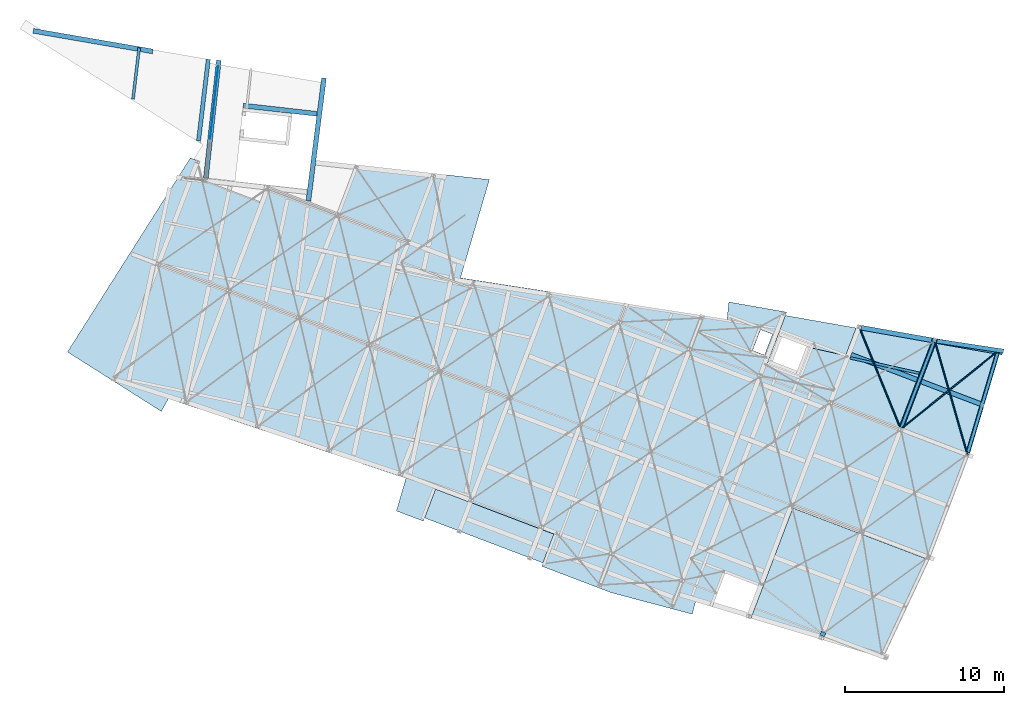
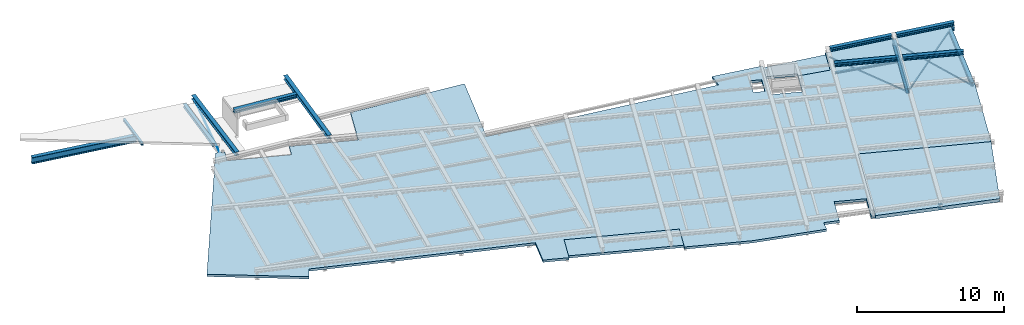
# One storey, part 18 of 21: 21 beams, 4 slabs, 2 openings.
"""IFC2X3 building model written with IfcOpenShell, lengths in millimetres."""

from ifc_helpers import new_model, entity, si_unit, converted_unit, derived_unit, direction, frame, frame_2d, origin, place, context, subcontext, project, spatial, polyline, circle_curve, parameter, trimmed, segment, composite_curve, rectangle, i_section, outline, extrude, material, layer, layer_set, layer_usage, type_object, element, save


model = new_model("IFC2X3")

# Units and contexts
model_context = context("Model", 3, precision=0.01, world=origin(), true_north=direction((6.123233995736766e-17, 1.0)))
body_context = subcontext(model_context, "Body", "Model", "MODEL_VIEW")
ifc_project = project(units=[si_unit("LENGTHUNIT", "METRE", prefix="MILLI"), converted_unit("PLANEANGLEUNIT", "DEGREE", entity("IfcPlaneAngleMeasure", 0.017453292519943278), si_unit("PLANEANGLEUNIT", "RADIAN"), dimensions=[0, 0, 0, 0, 0, 0, 0]), si_unit("AREAUNIT", "SQUARE_METRE"), derived_unit("THERMALTRANSMITTANCEUNIT", [(si_unit("MASSUNIT", "GRAM", prefix="KILO"), 1), (si_unit("THERMODYNAMICTEMPERATUREUNIT", "KELVIN"), -1), (si_unit("TIMEUNIT", "SECOND"), -3)])], contexts=[model_context])

# Site, building, storey
site_placement = place(None, frame((-72937.88054949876, 11621.45624098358, 0.0), z_axis=(0.0, 0.0, 1.0), x_axis=(0.9346418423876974, -0.35559053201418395, 0.0)))
site = spatial("IfcSite", under=ifc_project, at=site_placement, Name="Default", CompositionType="ELEMENT")
building_placement = place(site_placement, origin())
building = spatial("IfcBuilding", under=site, at=building_placement, CompositionType="ELEMENT")
storey_placement = place(building_placement, frame((0.0, 0.0, 4250.0)))
storey = spatial("IfcBuildingStorey", under=building, at=storey_placement, Name="01 eerste verdieping", CompositionType="ELEMENT", Elevation=4250.0)

# Beams
ifc_material_1 = material(Name="metaal_staal_generiek")
beam_type_1 = type_object("IfcBeamType", Name="DIE38", PredefinedType="BEAM")
beam_1_placement = place(storey_placement, frame((62300.0, 14735.0, -80.0), z_axis=(0.0, 0.0, 1.0), x_axis=(0.0, 1.0, 0.0)))
element("IfcBeam", 1, at=beam_1_placement, inside=storey, type_object=beam_type_1, material=ifc_material_1, Name="28.11_Stalen balk HEA", ObjectType="stalen balk HEA profiel", context=body_context, shape_type="SweptSolid", body=[
    extrude(i_section(OverallWidth=300.0000000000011, OverallDepth=369.9999999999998, WebThickness=10.999999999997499, FlangeThickness=19.000000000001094, FilletRadius=26.999999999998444, at=frame_2d((2.7000623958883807e-13, 0.0), x_axis=(0.0, 1.0))), frame((145.0, 0.0, -185.0), z_axis=(1.0, 0.0, 0.0), x_axis=(0.0, 0.0, -1.0)), (0.0, 0.0, 1.0), 250.00000000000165),
])
beam_type_2 = type_object("IfcBeamType", Name="DIE16", PredefinedType="BEAM")
beam_2_placement = place(storey_placement, frame((57570.0, 31810.0, -80.0), z_axis=(0.0, 0.0, 1.0), x_axis=(0.9895267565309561, 0.14434956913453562, 0.0)))
element("IfcBeam", 2, at=beam_2_placement, inside=storey, type_object=beam_type_2, material=ifc_material_1, Name="28.11_Stalen balk HEA", ObjectType="stalen balk HEA profiel", context=body_context, shape_type="SweptSolid", body=[
    extrude(i_section(OverallWidth=160.00000000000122, OverallDepth=152.0000000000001, WebThickness=5.999999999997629, FlangeThickness=9.00000000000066, FilletRadius=14.999999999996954, at=frame_2d((1.0871303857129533e-12, 2.1458390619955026e-12), x_axis=(0.0, 1.0))), frame((175.9813805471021, 0.0, -220.0), z_axis=(1.0, 0.0, 0.0), x_axis=(0.0, 0.0, -1.0)), (0.0, 0.0, 1.0), 4428.100000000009),
])
beam_type_3 = type_object("IfcBeamType", Name="DIE18", PredefinedType="BEAM")
beam_3_placement = place(storey_placement, frame((9817.08871430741, 31041.284292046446, -80.0), z_axis=(0.0, 0.0, 1.0), x_axis=(-0.24176909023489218, 0.9703338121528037, 0.0)))
element("IfcBeam", 3, at=beam_3_placement, inside=storey, type_object=beam_type_3, material=ifc_material_1, Name="28.11_Stalen balk HEA", ObjectType="stalen balk HEA profiel", context=body_context, shape_type="SweptSolid", body=[
    extrude(i_section(OverallWidth=180.0000000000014, OverallDepth=171.0000000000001, WebThickness=5.999999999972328, FlangeThickness=9.500000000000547, FilletRadius=14.99999999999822, at=frame_2d((1.0800249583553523e-12, -5.329070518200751e-13), x_axis=(0.0, 1.0))), frame((-35.08127612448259, 0.0, -255.50000000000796), z_axis=(1.0, 0.0, 0.0), x_axis=(0.0, 0.0, -1.0)), (0.0, 0.0, 1.0), 3252.4000000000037),
])
beam_type_4 = type_object("IfcBeamType", Name="DIE26", PredefinedType="BEAM")
beam_4_placement = place(storey_placement, frame((66520.00000397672, 35639.99997468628, -80.0), z_axis=(0.0, 0.0, 1.0), x_axis=(-0.9775304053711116, -0.21079446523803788, 0.0)))
element("IfcBeam", 4, at=beam_4_placement, inside=storey, type_object=beam_type_4, material=ifc_material_1, Name="28.11_Stalen balk HEA", ObjectType="stalen balk HEA profiel", context=body_context, shape_type="SweptSolid", body=[
    extrude(i_section(OverallWidth=260.0000000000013, OverallDepth=250.00000000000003, WebThickness=7.50000000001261, FlangeThickness=12.500000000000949, FilletRadius=24.000000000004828, at=frame_2d((-2.7000623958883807e-13, -7.275957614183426e-12), x_axis=(0.0, 1.0))), frame((-85.49936370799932, 0.0, -125.0), z_axis=(1.0, 0.0, 0.0), x_axis=(0.0, 0.0, -1.0)), (0.0, 0.0, 1.0), 4250.2000000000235),
])
beam_5_placement = place(storey_placement, frame((66779.31423777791, 28760.0, -80.0), z_axis=(0.0, 0.0, 1.0), x_axis=(-0.07392507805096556, 0.9972637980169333, 0.0)))
element("IfcBeam", 5, at=beam_5_placement, inside=storey, type_object=beam_type_4, material=ifc_material_1, Name="28.11_Stalen balk HEA", ObjectType="stalen balk HEA profiel", context=body_context, shape_type="SweptSolid", body=[
    extrude(i_section(OverallWidth=259.9999999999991, OverallDepth=250.00000000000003, WebThickness=7.499999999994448, FlangeThickness=12.500000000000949, FilletRadius=24.000000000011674, at=frame_2d((-2.7000623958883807e-13, 0.0), x_axis=(0.0, 1.0))), frame((144.94017126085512, 0.0, -125.0), z_axis=(1.0, 0.0, 0.0), x_axis=(0.0, 0.0, -1.0)), (0.0, 0.0, 1.0), 6518.4000000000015),
])
beam_6_placement = place(storey_placement, frame((14595.436674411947, 30062.69521065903, -80.0), z_axis=(0.0, 0.0, 1.0), x_axis=(-0.24176909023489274, 0.9703338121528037, 0.0)))
element("IfcBeam", 6, at=beam_6_placement, inside=storey, type_object=beam_type_4, material=ifc_material_1, Name="28.11_Stalen balk HEA", ObjectType="stalen balk HEA profiel", context=body_context, shape_type="SweptSolid", body=[
    extrude(i_section(OverallWidth=260.0000000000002, OverallDepth=250.00000000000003, WebThickness=7.500000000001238, FlangeThickness=12.500000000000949, FilletRadius=24.00000000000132, at=frame_2d((-2.7000623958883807e-13, 1.0516032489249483e-12), x_axis=(0.0, 1.0))), frame((-51.89979144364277, 0.0, -125.0), z_axis=(1.0, 0.0, 0.0), x_axis=(0.0, 0.0, -1.0)), (0.0, 0.0, 1.0), 5159.400000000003),
])
beam_type_5 = type_object("IfcBeamType", Name="DIE34", PredefinedType="BEAM")
beam_7_placement = place(storey_placement, frame((62300.0, 28760.0, -80.0), z_axis=(0.0, 0.0, 1.0), x_axis=(0.0, 1.0, 0.0)))
element("IfcBeam", 7, at=beam_7_placement, inside=storey, type_object=beam_type_5, material=ifc_material_1, Name="28.11_Stalen balk HEA", ObjectType="stalen balk HEA profiel", context=body_context, shape_type="SweptSolid", body=[
    extrude(i_section(OverallWidth=300.0000000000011, OverallDepth=329.9999999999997, WebThickness=9.49999999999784, FlangeThickness=16.500000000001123, FilletRadius=26.999999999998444, at=frame_2d((0.0, -8.65441052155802e-12), x_axis=(0.0, 1.0))), frame((137.69999999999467, 0.0, -165.0), z_axis=(1.0, 0.0, 0.0), x_axis=(0.0, 0.0, -1.0)), (0.0, 0.0, 1.0), 5917.800000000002),
])
beam_type_6 = type_object("IfcBeamType", Name="L70x7", PredefinedType="NOTDEFINED")
beam_8_placement = place(storey_placement, frame((66277.43094356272, 35530.504047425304, -270.0), z_axis=(0.0, 0.0, 1.0), x_axis=(-0.5065263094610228, -0.8622245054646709, 0.0)))
element("IfcBeam", 8, at=beam_8_placement, inside=storey, type_object=beam_type_6, material=ifc_material_1, Name="28.11_Stalen balk HEA", ObjectType="{$type(\"IfcObjectType[Type]\")}", context=body_context, shape_type="SweptSolid", body=[
    extrude(outline(composite_curve([segment(polyline([(-26.444444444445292, -43.555555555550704), (-23.944444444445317, -43.555555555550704)]), True, "CONTINUOUS"), segment(trimmed(circle_curve(frame_2d((-23.94444444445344, -39.055555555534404), x_axis=(0.0, -1.0)), 4.500000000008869), [parameter(0.0)], [parameter(89.99999999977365)], True, "PARAMETER"), True, "CONTINUOUS"), segment(polyline([(-19.444444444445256, -39.05555555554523), (-19.444444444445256, 10.444444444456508)]), True, "CONTINUOUS"), segment(trimmed(circle_curve(frame_2d((-10.444444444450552, 10.444444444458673), x_axis=(-1.0, 0.0)), 8.999999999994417), [parameter(269.99999999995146)], [parameter(0.0)], True, "PARAMETER"), False, "CONTINUOUS"), segment(polyline([(-10.444444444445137, 19.44444444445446), (39.05555555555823, 19.44444444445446)]), True, "CONTINUOUS"), segment(trimmed(circle_curve(frame_2d((39.05555555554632, 23.944444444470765), x_axis=(0.0, -1.0)), 4.5000000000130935), [parameter(0.0)], [parameter(89.99999999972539)], True, "PARAMETER"), True, "CONTINUOUS"), segment(polyline([(43.55555555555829, 23.944444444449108), (43.55555555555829, 26.44444444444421)]), True, "CONTINUOUS"), segment(polyline([(43.55555555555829, 26.44444444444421), (-26.444444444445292, 26.44444444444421)]), True, "CONTINUOUS"), segment(polyline([(-26.444444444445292, 26.44444444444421), (-26.444444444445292, -43.555555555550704)]), True, "CONTINUOUS")], self_intersect=False)), frame((190.4839605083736, -6.744444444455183, -6.7444444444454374), z_axis=(1.0, 0.0, 0.0), x_axis=(0.0, 0.0, -1.0)), (0.0, 0.0, 1.0), 7505.300000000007),
])
beam_9_placement = place(storey_placement, frame((66779.68145791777, 28759.510571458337, -270.0), z_axis=(0.0, 0.0, 1.0), x_axis=(-0.6001555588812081, 0.7998833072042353, 0.0)))
element("IfcBeam", 9, at=beam_9_placement, inside=storey, type_object=beam_type_6, material=ifc_material_1, Name="28.11_Stalen balk HEA", ObjectType="{$type(\"IfcObjectType[Type]\")}", context=body_context, shape_type="SweptSolid", body=[
    extrude(outline(composite_curve([segment(polyline([(-26.444444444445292, -43.55555555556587), (-23.944444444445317, -43.55555555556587)]), True, "CONTINUOUS"), segment(trimmed(circle_curve(frame_2d((-23.944444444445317, -39.05555555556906), x_axis=(0.0, -1.0)), 4.500000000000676), [parameter(0.0)], [parameter(89.999999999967)], True, "PARAMETER"), True, "CONTINUOUS"), segment(polyline([(-19.444444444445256, -39.055555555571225), (-19.444444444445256, 10.444444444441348)]), True, "CONTINUOUS"), segment(trimmed(circle_curve(frame_2d((-10.444444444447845, 10.44444444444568), x_axis=(-1.0, 0.0)), 8.999999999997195), [parameter(269.9999999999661)], [parameter(0.0)], True, "PARAMETER"), False, "CONTINUOUS"), segment(polyline([(-10.444444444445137, 19.44444444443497), (39.05555555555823, 19.44444444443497)]), True, "CONTINUOUS"), segment(trimmed(circle_curve(frame_2d((39.05555555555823, 23.944444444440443), x_axis=(0.0, -1.0)), 4.500000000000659), [parameter(0.0)], [parameter(89.999999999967)], True, "PARAMETER"), True, "CONTINUOUS"), segment(polyline([(43.55555555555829, 23.944444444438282), (43.55555555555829, 26.444444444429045)]), True, "CONTINUOUS"), segment(polyline([(43.55555555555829, 26.444444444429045), (-26.444444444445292, 26.444444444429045)]), True, "CONTINUOUS"), segment(polyline([(-26.444444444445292, 26.444444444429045), (-26.444444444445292, -43.55555555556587)]), True, "CONTINUOUS")], self_intersect=False)), frame((-28.199720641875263, -6.744444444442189, -6.7444444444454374), z_axis=(1.0, 0.0, 0.0), x_axis=(0.0, 0.0, -1.0)), (0.0, 0.0, 1.0), 7345.300000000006),
])
beam_10_placement = place(storey_placement, frame((62300.0, 28760.0, -270.0), z_axis=(0.0, 0.0, 1.0), x_axis=(-0.6824187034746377, 0.7309614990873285, 0.0)))
element("IfcBeam", 10, at=beam_10_placement, inside=storey, type_object=beam_type_6, material=ifc_material_1, Name="28.11_SF_WVB-L-Gelijkzijdig:L70x7", ObjectType="28.11_SF_WVB-L-Gelijkzijdig:L70x7", context=body_context, shape_type="SweptSolid", body=[
    extrude(outline(composite_curve([segment(polyline([(-26.444444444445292, -43.55555555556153), (-23.944444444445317, -43.55555555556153)]), True, "CONTINUOUS"), segment(trimmed(circle_curve(frame_2d((-23.944444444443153, -39.055555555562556), x_axis=(0.0, -1.0)), 4.499999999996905), [parameter(0.0)], [parameter(90.00000000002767)], True, "PARAMETER"), True, "CONTINUOUS"), segment(polyline([(-19.444444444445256, -39.05555555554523), (-19.444444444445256, 10.444444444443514)]), True, "CONTINUOUS"), segment(trimmed(circle_curve(frame_2d((-10.444444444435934, 10.444444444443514), x_axis=(-1.0, 0.0)), 9.000000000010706), [parameter(270.0000000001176)], [parameter(0.0)], True, "PARAMETER"), False, "CONTINUOUS"), segment(polyline([(-10.444444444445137, 19.444444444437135), (39.05555555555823, 19.444444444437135)]), True, "CONTINUOUS"), segment(trimmed(circle_curve(frame_2d((39.0555555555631, 23.944444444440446), x_axis=(0.0, -1.0)), 4.499999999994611), [parameter(0.0)], [parameter(90.00000000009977)], True, "PARAMETER"), True, "CONTINUOUS"), segment(polyline([(43.55555555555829, 23.944444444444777), (43.55555555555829, 26.444444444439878)]), True, "CONTINUOUS"), segment(polyline([(43.55555555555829, 26.444444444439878), (-26.444444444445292, 26.444444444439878)]), True, "CONTINUOUS"), segment(polyline([(-26.444444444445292, 26.444444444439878), (-26.444444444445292, -43.55555555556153)]), True, "CONTINUOUS")], self_intersect=False)), frame((192.81427457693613, -6.74444444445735, -6.7444444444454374), z_axis=(1.0, 0.0, 0.0), x_axis=(0.0, 0.0, -1.0)), (0.0, 0.0, 1.0), 6576.600000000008),
])
beam_type_7 = type_object("IfcBeamType", Name="UNP240", PredefinedType="NOTDEFINED")
beam_11_placement = place(storey_placement, frame((62300.0, 28885.0, -410.0), z_axis=(0.0, 0.0, 1.0), x_axis=(0.0, 1.0, 0.0)))
element("IfcBeam", 11, at=beam_11_placement, inside=storey, type_object=beam_type_7, material=ifc_material_1, Name="28.11_SF_BalkUNP:UNP240", ObjectType="28.11_SF_BalkUNP:UNP240", context=body_context, shape_type="SweptSolid", body=[
    extrude(outline(composite_curve([segment(polyline([(-38.33631675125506, -120.0), (46.66368324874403, -120.0)]), True, "CONTINUOUS"), segment(polyline([(46.66368324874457, -120.0), (46.66368324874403, 120.0)]), True, "CONTINUOUS"), segment(polyline([(46.66368324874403, 120.0), (-38.33631675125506, 120.0)]), True, "CONTINUOUS"), segment(polyline([(-38.33631675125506, 120.0), (-38.33631675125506, 116.3982515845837)]), True, "CONTINUOUS"), segment(trimmed(circle_curve(frame_2d((-31.836316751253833, 116.3982515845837), x_axis=(-1.0, 0.0)), 6.500000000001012), [parameter(0.0)], [parameter(85.42999999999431)], True, "PARAMETER"), True, "CONTINUOUS"), segment(polyline([(-32.35421725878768, 109.91891681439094), (25.19948426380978, 105.31858479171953)]), True, "CONTINUOUS"), segment(trimmed(circle_curve(frame_2d((24.16368324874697, 92.35991525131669), x_axis=(0.07967700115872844, 0.9968207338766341)), 12.999999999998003), [parameter(274.5699999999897)], [parameter(0.0)], True, "PARAMETER"), False, "CONTINUOUS"), segment(polyline([(37.163683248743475, 92.35991525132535), (37.163683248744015, -92.35991525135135)]), True, "CONTINUOUS"), segment(trimmed(circle_curve(frame_2d((24.16368324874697, -92.35991525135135), x_axis=(1.0, 0.0)), 12.999999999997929), [parameter(274.5699999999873)], [parameter(0.0)], True, "PARAMETER"), False, "CONTINUOUS"), segment(polyline([(25.19948426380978, -105.3185847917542), (-32.35421725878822, -109.91891681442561)]), True, "CONTINUOUS"), segment(trimmed(circle_curve(frame_2d((-31.836316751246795, -116.39825158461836), x_axis=(-0.07967700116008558, 0.9968207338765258)), 6.500000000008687), [parameter(0.0)], [parameter(85.42999999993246)], True, "PARAMETER"), True, "CONTINUOUS"), segment(polyline([(-38.33631675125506, -116.39825158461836), (-38.33631675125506, -120.0)]), True, "CONTINUOUS")], self_intersect=False)), frame((12.79999999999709, 0.0, -38.33631675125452), z_axis=(1.0, 0.0, 0.0), x_axis=(0.0, 0.0, -1.0)), (0.0, 0.0, 1.0), 5746.700000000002),
])
beam_12_placement = place(storey_placement, frame((66767.66762166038, 28917.115135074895, -330.0), z_axis=(0.0, 0.0, 1.0), x_axis=(-0.07392507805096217, 0.9972637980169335, 0.0)))
element("IfcBeam", 12, at=beam_12_placement, inside=storey, type_object=beam_type_7, material=ifc_material_1, Name="28.11_SF_BalkUNP:UNP240", ObjectType="28.11_SF_BalkUNP:UNP240", context=body_context, shape_type="SweptSolid", body=[
    extrude(outline(composite_curve([segment(polyline([(-38.33631675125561, -120.0), (46.66368324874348, -120.0)]), True, "CONTINUOUS"), segment(polyline([(46.66368324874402, -120.0), (46.66368324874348, 120.0)]), True, "CONTINUOUS"), segment(polyline([(46.66368324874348, 120.0), (-38.33631675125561, 120.0)]), True, "CONTINUOUS"), segment(polyline([(-38.33631675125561, 120.0), (-38.33631675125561, 116.39825158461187)]), True, "CONTINUOUS"), segment(trimmed(circle_curve(frame_2d((-31.836316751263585, 116.39825158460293), x_axis=(-1.0, 0.0)), 6.499999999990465), [parameter(0.0)], [parameter(85.4300000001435)], True, "PARAMETER"), True, "CONTINUOUS"), segment(polyline([(-32.354217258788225, 109.91891681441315), (25.199484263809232, 105.31858479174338)]), True, "CONTINUOUS"), segment(trimmed(circle_curve(frame_2d((24.1636832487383, 92.35991525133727), x_axis=(0.07967700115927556, 0.996820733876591)), 13.000000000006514), [parameter(274.5700000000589)], [parameter(0.0)], True, "PARAMETER"), False, "CONTINUOUS"), segment(polyline([(37.16368324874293, 92.35991525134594), (37.16368324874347, -92.3599152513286)]), True, "CONTINUOUS"), segment(trimmed(circle_curve(frame_2d((24.1636832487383, -92.35991525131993), x_axis=(1.0, 0.0)), 13.000000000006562), [parameter(274.5700000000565)], [parameter(0.0)], True, "PARAMETER"), False, "CONTINUOUS"), segment(polyline([(25.199484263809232, -105.3185847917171), (-32.354217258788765, -109.91891681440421)]), True, "CONTINUOUS"), segment(trimmed(circle_curve(frame_2d((-31.836316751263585, -116.39825158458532), x_axis=(-0.07967700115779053, 0.9968207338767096)), 6.499999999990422), [parameter(0.0)], [parameter(85.43000000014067)], True, "PARAMETER"), True, "CONTINUOUS"), segment(polyline([(-38.33631675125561, -116.39825158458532), (-38.33631675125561, -120.0)]), True, "CONTINUOUS")], self_intersect=False)), frame((0.04697896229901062, 0.0, -38.33631675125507), z_axis=(1.0, 0.0, 0.0), x_axis=(0.0, 0.0, -1.0)), (0.0, 0.0, 1.0), 6505.700000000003),
])
beam_type_8 = type_object("IfcBeamType", Name="HEA550", PredefinedType="BEAM")
beam_13_placement = place(storey_placement, frame((9569.048762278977, 34179.783621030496, -1755.2339935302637), z_axis=(0.0, 0.0, 1.0), x_axis=(-0.9814821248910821, -0.19155374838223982, 0.0)))
element("IfcBeam", 13, at=beam_13_placement, inside=storey, type_object=beam_type_8, material=ifc_material_1, Name="28.11_Stalen balk HEA", ObjectType="stalen balk HEA profiel", context=body_context, shape_type="SweptSolid", body=[
    extrude(i_section(OverallWidth=299.99999999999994, OverallDepth=540.0000000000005, WebThickness=12.500000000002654, FlangeThickness=24.00000000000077, FilletRadius=26.999999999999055, at=frame_2d((3.979039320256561e-13, -6.579625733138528e-12), x_axis=(0.0, 1.0))), frame((-353.98152504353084, 0.0, -270.0), z_axis=(1.0, 0.0, 0.0), x_axis=(0.0, 0.0, -1.0)), (0.0, 0.0, 1.0), 7612.0),
])
ifc_material_2 = material(Name="metaal_staal_profiel_s235")
beam_type_9 = type_object("IfcBeamType", Name="HEA320", PredefinedType="BEAM")
beam_14_placement = place(storey_placement, frame((20600.07609459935, 36392.097615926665, 450.0), z_axis=(0.0, 0.0, 1.0), x_axis=(0.23553621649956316, -0.9718655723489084, 0.0)))
element("IfcBeam", 14, at=beam_14_placement, inside=storey, type_object=beam_type_9, material=ifc_material_2, Name="28.11_Stalen balk HEA", ObjectType="stalen balk HEA profiel", context=body_context, shape_type="SweptSolid", body=[
    extrude(i_section(OverallWidth=300.0000000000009, OverallDepth=309.9999999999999, WebThickness=9.000000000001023, FlangeThickness=15.500000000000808, FilletRadius=26.99999999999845, at=frame_2d((0.0, -4.206412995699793e-12), x_axis=(0.0, 1.0))), frame((-124.99595730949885, 0.0, -155.0), z_axis=(1.0, 0.0, 0.0), x_axis=(0.0, 0.0, -1.0)), (0.0, 0.0, 1.0), 7787.3),
])
beam_15_placement = place(storey_placement, frame((14031.04853430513, 35086.70039964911, 450.0), z_axis=(0.0, 0.0, 1.0), x_axis=(0.2510172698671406, -0.9679826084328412, 0.0)))
element("IfcBeam", 15, at=beam_15_placement, inside=storey, type_object=beam_type_9, material=ifc_material_2, Name="28.11_Stalen balk HEA", ObjectType="stalen balk HEA profiel", context=body_context, shape_type="SweptSolid", body=[
    extrude(i_section(OverallWidth=299.9999999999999, OverallDepth=309.9999999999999, WebThickness=9.000000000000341, FlangeThickness=15.500000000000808, FilletRadius=26.999999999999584, at=frame_2d((5.542233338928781e-13, -2.1032064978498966e-12), x_axis=(0.0, 1.0))), frame((-124.96353701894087, 0.0, -155.0), z_axis=(1.0, 0.0, 0.0), x_axis=(0.0, 0.0, -1.0)), (0.0, 0.0, 1.0), 7449.699999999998),
])
beam_16_placement = place(storey_placement, frame((16547.51475568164, 33119.085535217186, 450.0), z_axis=(0.0, 0.0, 1.0), x_axis=(0.9683642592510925, 0.2495409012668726, 0.0)))
element("IfcBeam", 16, at=beam_16_placement, inside=storey, type_object=beam_type_9, material=ifc_material_1, Name="28.11_Stalen balk HEA", ObjectType="stalen balk HEA profiel", context=body_context, shape_type="SweptSolid", body=[
    extrude(i_section(OverallWidth=299.9999999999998, OverallDepth=309.9999999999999, WebThickness=9.00000000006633, FlangeThickness=15.500000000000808, FilletRadius=27.00000000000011, at=frame_2d((5.400124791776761e-13, 6.835421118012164e-12), x_axis=(0.0, 1.0))), frame((-103.97586622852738, 0.0, -155.0), z_axis=(1.0, 0.0, 0.0), x_axis=(0.0, 0.0, -1.0)), (0.0, 0.0, 1.0), 4661.800106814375),
])
beam_type_10 = type_object("IfcBeamType", Name="HEA300", PredefinedType="BEAM")
beam_17_placement = place(storey_placement, frame((66536.24036247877, 32039.114239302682, 450.0), z_axis=(0.0, 0.0, 1.0), x_axis=(-1.0, 0.0, 0.0)))
element("IfcBeam", 17, at=beam_17_placement, inside=storey, type_object=beam_type_10, material=ifc_material_2, Name="28.11_Stalen balk HEA", ObjectType="stalen balk HEA profiel", context=body_context, shape_type="SweptSolid", body=[
    extrude(i_section(OverallWidth=300.0000000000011, OverallDepth=290.0000000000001, WebThickness=8.500000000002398, FlangeThickness=14.00000000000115, FilletRadius=26.999999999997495, at=frame_2d((0.0, 2.1600499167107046e-12), x_axis=(0.0, 1.0))), frame((-124.97981876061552, 0.0, -145.0), z_axis=(1.0, 0.0, 0.0), x_axis=(0.0, 0.0, -1.0)), (0.0, 0.0, 1.0), 4211.200000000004),
])
beam_18_placement = place(storey_placement, frame((62300.0, 32039.114239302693, 450.0), z_axis=(0.0, 0.0, 1.0), x_axis=(-1.0, 0.0, 0.0)))
element("IfcBeam", 18, at=beam_18_placement, inside=storey, type_object=beam_type_10, material=ifc_material_2, Name="28.11_Stalen balk HEA", ObjectType="stalen balk HEA profiel", context=body_context, shape_type="SweptSolid", body=[
    extrude(i_section(OverallWidth=299.99999999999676, OverallDepth=290.0000000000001, WebThickness=8.500000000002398, FlangeThickness=14.000000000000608, FilletRadius=26.999999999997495, at=frame_2d((0.0, -2.1600499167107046e-12), x_axis=(0.0, 1.0))), frame((150.0, 0.0, -145.0), z_axis=(1.0, 0.0, 0.0), x_axis=(0.0, 0.0, -1.0)), (0.0, 0.0, 1.0), 4429.999999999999),
])
beam_19_placement = place(storey_placement, frame((66443.25595976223, 35521.45718249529, 450.0), z_axis=(0.0, 0.0, 1.0), x_axis=(-0.9822397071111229, -0.18763037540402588, 0.0)))
element("IfcBeam", 19, at=beam_19_placement, inside=storey, type_object=beam_type_10, material=ifc_material_2, Name="28.11_Stalen balk HEA", ObjectType="stalen balk HEA profiel", context=body_context, shape_type="SweptSolid", body=[
    extrude(i_section(OverallWidth=299.99999999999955, OverallDepth=290.0000000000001, WebThickness=8.499999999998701, FlangeThickness=14.00000000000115, FilletRadius=27.00000000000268, at=frame_2d((0.0, 7.204903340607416e-12), x_axis=(0.0, 1.0))), frame((-124.97981876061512, 0.0, -145.0), z_axis=(1.0, 0.0, 0.0), x_axis=(0.0, 0.0, -1.0)), (0.0, 0.0, 1.0), 4211.200000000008),
])
beam_20_placement = place(storey_placement, frame((62300.0, 34730.0, 450.0), z_axis=(0.0, 0.0, 1.0), x_axis=(-0.982239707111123, -0.18763037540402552, 0.0)))
element("IfcBeam", 20, at=beam_20_placement, inside=storey, type_object=beam_type_10, material=ifc_material_2, Name="28.11_Stalen balk HEA", ObjectType="stalen balk HEA profiel", context=body_context, shape_type="SweptSolid", body=[
    extrude(i_section(OverallWidth=299.99999999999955, OverallDepth=290.0000000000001, WebThickness=8.500000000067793, FlangeThickness=14.000000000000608, FilletRadius=27.000000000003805, at=frame_2d((2.7000623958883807e-13, -4.249045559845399e-12), x_axis=(0.0, 1.0))), frame((181.4125684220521, 0.0, -145.0), z_axis=(1.0, 0.0, 0.0), x_axis=(0.0, 0.0, -1.0)), (0.0, 0.0, 1.0), 4484.900000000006),
])
beam_type_11 = type_object("IfcBeamType", Name="STRIP 10x100", PredefinedType="NOTDEFINED")
beam_21_placement = place(storey_placement, frame((15279.44422966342, 30263.472175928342, -1740.0), z_axis=(0.09126838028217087, -0.3522086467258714, 0.9314607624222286), x_axis=(-0.23365352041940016, 0.9016790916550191, 0.36384178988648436)))
element("IfcBeam", 21, at=beam_21_placement, inside=storey, type_object=beam_type_11, material=ifc_material_1, Name="28.11_SF_WVB-Strip:STRIP 10x100", ObjectType="28.11_SF_WVB-Strip:STRIP 10x100", context=body_context, shape_type="SweptSolid", body=[
    extrude(rectangle(XDim=99.99999999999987, YDim=9.9999999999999, at=frame_2d((-6.039613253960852e-13, -1.0484946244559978e-12), x_axis=(1.0, 0.0))), frame((160.09050064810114, 0.0, 0.0), z_axis=(1.0, 0.0, 0.0), x_axis=(0.0, 0.0, -1.0)), (0.0, 0.0, 1.0), 4889.9000000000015),
])

# Slab, openings
ifc_material_3 = material(Name="beton_gewapend_ihw")
ifc_layer_1 = layer(ifc_material_3, 190.00000000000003)
ifc_layer_set_1 = layer_set([ifc_layer_1], Name="Floor:23.21_FL_Beton190mm (DATO)")
ifc_layer_usage_1 = layer_usage(ifc_layer_set_1, "AXIS3", "POSITIVE", 0.0)
slab_type_1 = type_object("IfcSlabType", Name="23.21_FL_Beton190mm (DATO)", PredefinedType="FLOOR", material=ifc_layer_set_1)
slab_1_placement = place(storey_placement, frame((1615.9319796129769, 12702.982078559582, -250.0)))
slab_1 = element("IfcSlab", 22, at=slab_1_placement, inside=storey, type_object=slab_type_1, material=ifc_layer_usage_1, Name="beton 250mm", ObjectType="{$type(\"IfcObjectType[Type]\")}", PredefinedType="FLOOR", context=body_context, shape_type="SweptSolid", body=[
    extrude(outline(polyline([(-23157.033932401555, -9893.281146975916), (-23157.033932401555, -7794.232316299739), (-20937.03408798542, -7794.232316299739), (-20937.03408798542, -10054.42022534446), (-19841.419836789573, -10133.945578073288), (-19920.126924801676, -10934.970410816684), (-14704.938370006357, -11481.250366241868), (-10007.033932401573, -11481.250366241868), (-10007.033932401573, -9324.232444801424), (-2047.0339324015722, -9324.232444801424), (-2047.0339324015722, -11481.250366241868), (-236.49594437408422, -11481.250366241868), (-69.25861792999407, -9358.066208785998), (15654.907319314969, -9980.496387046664), (15800.705434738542, -10889.754082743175), (22639.985569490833, -9496.070650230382), (19756.99096709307, 4651.767555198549), (19112.966067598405, 4651.767555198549), (19112.966067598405, 3625.7675551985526), (14682.966067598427, 3625.7675551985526), (14682.966067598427, 4625.76755519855), (9912.966067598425, 4625.76755519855), (9912.966067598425, 7940.283118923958), (1702.853407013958, 10060.581308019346), (1206.2330021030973, 3641.0229063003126), (-15369.983409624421, 7161.247026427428), (-15094.688561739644, 8226.194131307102), (-18717.03393240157, 8918.1454104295), (-18717.03393240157, 7037.037115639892), (-23157.033932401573, 7684.732675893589), (-23157.033932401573, 9766.287529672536), (-32134.815864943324, 11481.25036624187), (-32647.034087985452, 4571.326102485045), (-32647.034087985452, -2449.232444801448), (-23457.033932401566, -2449.232444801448), (-23457.033932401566, -9871.50559431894), (-23157.033932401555, -9893.281146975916)])), frame((32647.034087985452, 11481.250366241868, 190.0), z_axis=(0.0, 0.0, -1.0), x_axis=(-1.0, 0.0, 0.0)), (0.0, 0.0, 1.0), 190.0000000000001),
])
opening_1_placement = place(storey_placement, frame((1615.9319796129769, 12702.982078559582, -250.0)))
element("IfcOpeningElement", 23, at=opening_1_placement, cuts=slab_1, ObjectType="Opening", context=body_context, shape_type="SweptSolid", body=[
    extrude(rectangle(XDim=2150.0, YDim=2150.0000000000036, at=frame_2d((-19822.033932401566, 6530.7675551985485), x_axis=(0.0, -1.0))), frame((32647.034087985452, 11481.250366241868, 190.0), z_axis=(0.0, 0.0, -1.0), x_axis=(-1.0, 0.0, 0.0)), (0.0, 0.0, 1.0), 190.0000000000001),
])
opening_2_placement = place(storey_placement, frame((1615.9319796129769, 12702.982078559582, -250.0)))
element("IfcOpeningElement", 24, at=opening_2_placement, cuts=slab_1, ObjectType="Opening", context=body_context, shape_type="SweptSolid", body=[
    extrude(rectangle(XDim=1399.9999999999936, YDim=800.0000000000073, at=frame_2d((-17977.033932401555, 6605.76755519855), x_axis=(0.0, 1.0))), frame((32647.034087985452, 11481.250366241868, 190.0), z_axis=(0.0, 0.0, -1.0), x_axis=(-1.0, 0.0, 0.0)), (0.0, 0.0, 1.0), 190.0000000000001),
])

# Slabs
ifc_material_4 = material(Name="hout_multiplex_plaat")
ifc_layer_2 = layer(ifc_material_4, 20.0)
ifc_material_5 = material(Name="hout_vuren_generiek_c18")
ifc_layer_3 = layer(ifc_material_5, 170.0)
ifc_layer_set_2 = layer_set([ifc_layer_2, ifc_layer_3], Name="Floor:23.21_FL_best.Houtenvloer190mm")
ifc_layer_usage_2 = layer_usage(ifc_layer_set_2, "AXIS3", "POSITIVE", 0.0)
slab_type_2 = type_object("IfcSlabType", Name="23.21_FL_best.Houtenvloer190mm", PredefinedType="FLOOR", material=ifc_layer_set_2)
slab_2_placement = place(storey_placement, origin())
element("IfcSlab", 25, at=slab_2_placement, inside=storey, type_object=slab_type_2, material=ifc_layer_usage_2, Name="Floor:23.21_FL_best.Houtenvloer190mm", ObjectType="Floor:23.21_FL_best.Houtenvloer190mm", PredefinedType="FLOOR", context=body_context, shape_type="SweptSolid", body=[
    extrude(rectangle(XDim=1937.0179214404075, YDim=7960.000000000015, at=frame_2d((-1.0800249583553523e-12, 6.59383658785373e-12), x_axis=(1.0, 0.0))), frame((40290.0, 13891.491039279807, -60.0), z_axis=(0.0, 0.0, -1.0), x_axis=(0.0, 1.0, 0.0)), (0.0, 0.0, 1.0), 190.0000000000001),
])
ifc_layer_usage_3 = layer_usage(ifc_layer_set_2, "AXIS3", "POSITIVE", 0.0)
slab_3_placement = place(storey_placement, origin())
element("IfcSlab", 26, at=slab_3_placement, inside=storey, type_object=slab_type_2, material=ifc_layer_usage_3, Name="Floor:23.21_FL_best.Houtenvloer190mm", ObjectType="Floor:23.21_FL_best.Houtenvloer190mm", PredefinedType="FLOOR", context=body_context, shape_type="SweptSolid", body=[
    extrude(outline(polyline([(-783.7435409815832, -1662.4999999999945), (873.3868404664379, -1662.4999999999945), (1721.5289597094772, 2777.5000000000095), (-136.04798072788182, 2777.5000000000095), (-465.73085599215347, 517.5000000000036), (-215.0131014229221, 517.5000000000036), (-215.0131014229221, -1632.5000000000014), (-779.3672196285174, -1632.5000000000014), (-783.7435409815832, -1662.4999999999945)])), frame((54642.49999999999, 32005.01310142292, -60.0), z_axis=(0.0, 0.0, -1.0), x_axis=(0.0, 1.0, 0.0)), (0.0, 0.0, 1.0), 190.0000000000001),
])
ifc_material_6 = material(Name="beton_gewapend_ihw_c20/25")
ifc_layer_4 = layer(ifc_material_6, 50.0)
ifc_material_7 = material(Name="hout_vuren_generiek_c24")
ifc_layer_5 = layer(ifc_material_7, 220.0)
ifc_layer_set_3 = layer_set([ifc_layer_4, ifc_layer_5], Name="Floor:23.21_FL_Lewisvloer50-220")
ifc_layer_usage_4 = layer_usage(ifc_layer_set_3, "AXIS3", "POSITIVE", 0.0)
slab_type_3 = type_object("IfcSlabType", Name="23.21_FL_Lewisvloer50-220", PredefinedType="FLOOR", material=ifc_layer_set_3)
slab_4_placement = place(storey_placement, origin())
element("IfcSlab", 27, at=slab_4_placement, inside=storey, type_object=slab_type_3, material=ifc_layer_usage_4, Name="Floor:23.21_FL_Lewisvloer50-220", ObjectType="Floor:23.21_FL_Lewisvloer50-220", PredefinedType="FLOOR", context=body_context, shape_type="SweptSolid", body=[
    extrude(outline(polyline([(-3868.5629973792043, -4463.581484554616), (3553.710152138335, -4463.581484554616), (3553.710152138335, 4715.340888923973), (-3238.8573068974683, 4211.82208018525), (-3868.5629973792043, -4463.581484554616)])), frame((62183.58148455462, 18181.28984786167, -60.0), z_axis=(0.0, 0.0, -1.0), x_axis=(0.0, 1.0, 0.0)), (0.0, 0.0, 1.0), 269.99999999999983),
])

save(model, "model.ifc")
